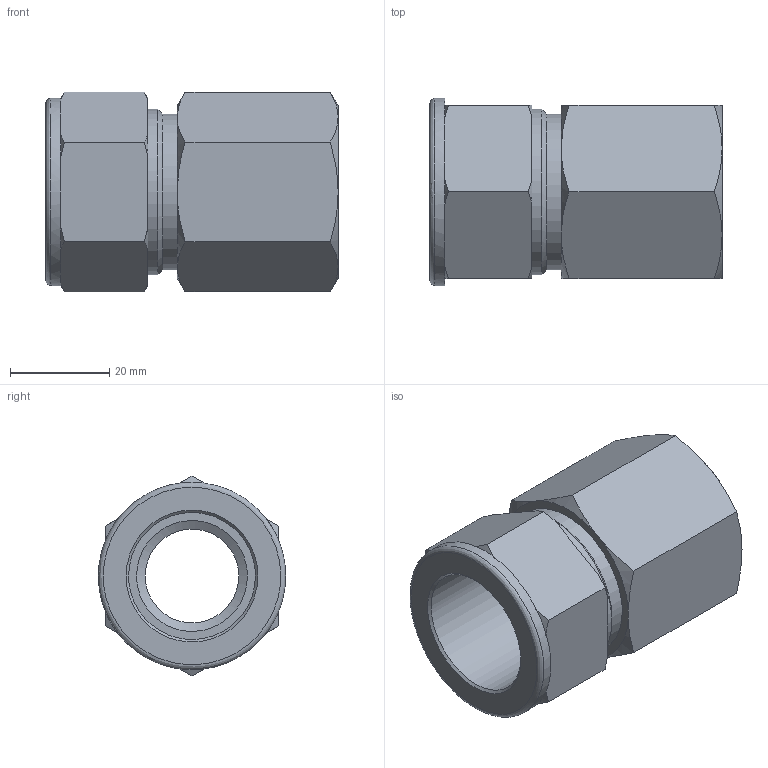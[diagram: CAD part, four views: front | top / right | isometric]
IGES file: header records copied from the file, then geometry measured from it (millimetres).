
Global section: file name: SFC-16-8N; native system: Autodesk Inventor 2016; preprocessor: unknown; author: 배성훈,,11,0; organization: 20151010.064254; date: 20151019.102903; units: millimetre
Bounding box: 58.96 x 37.8 x 40.32 mm (x, y, z)
Volume: 36454.8 mm3; surface area: 13207.9 mm2
Topology: 1 solids, 1 shells, 59 faces, 152 edges, 98 vertices
Faces by surface type: bspline 59
